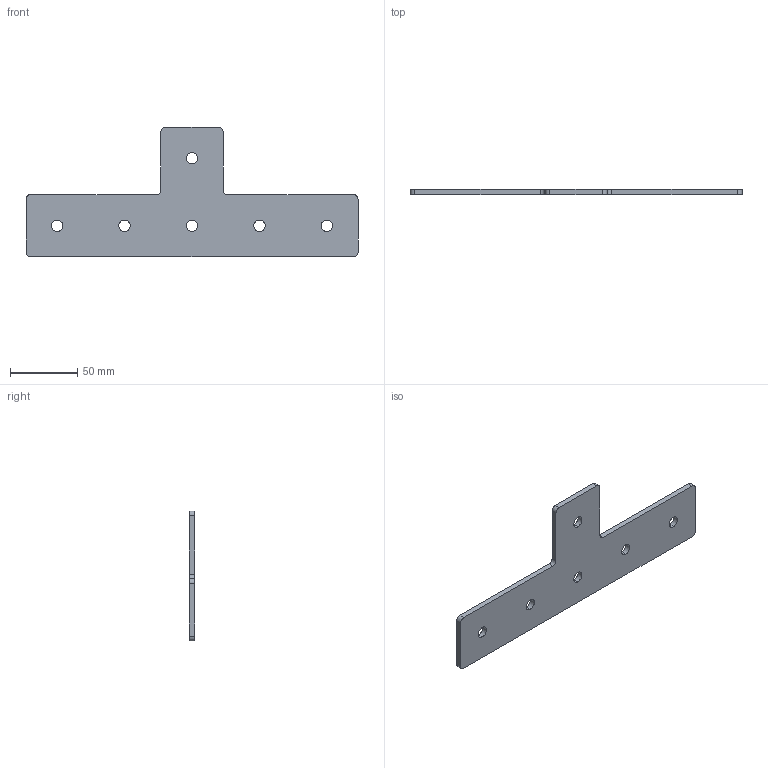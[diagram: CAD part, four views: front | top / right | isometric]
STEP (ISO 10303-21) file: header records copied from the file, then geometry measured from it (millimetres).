
FILE_DESCRIPTION (( 'STEP AP203' ), '1' );
FILE_NAME ('Ò-6-50.STEP', '2017-03-22T10:44:22', ( 'RosInstal-MKM' ), ( '' ), 'SwSTEP 2.0', 'SolidWorks 2014', '' );
FILE_SCHEMA (( 'CONFIG_CONTROL_DESIGN' ));
Length unit declared in the file: millimetre
Products named in the file (1): ﾒ-6-50
Bounding box: 246 x 4 x 96 mm (x, y, z)
Volume: 53063.2 mm3; surface area: 29862.3 mm2
Topology: 1 solids, 1 shells, 30 faces, 84 edges, 56 vertices
Faces by surface type: cylinder 20, plane 10
Entity records: 1089 total; most frequent: DIRECTION 186, CARTESIAN_POINT 171, ORIENTED_EDGE 168, EDGE_CURVE 84, AXIS2_PLACEMENT_3D 71, VERTEX_POINT 56, LINE 44, VECTOR 44
